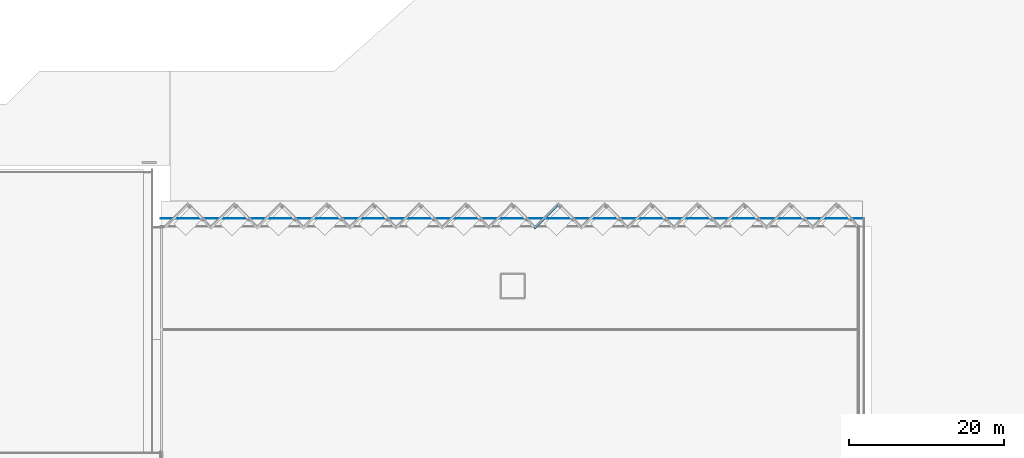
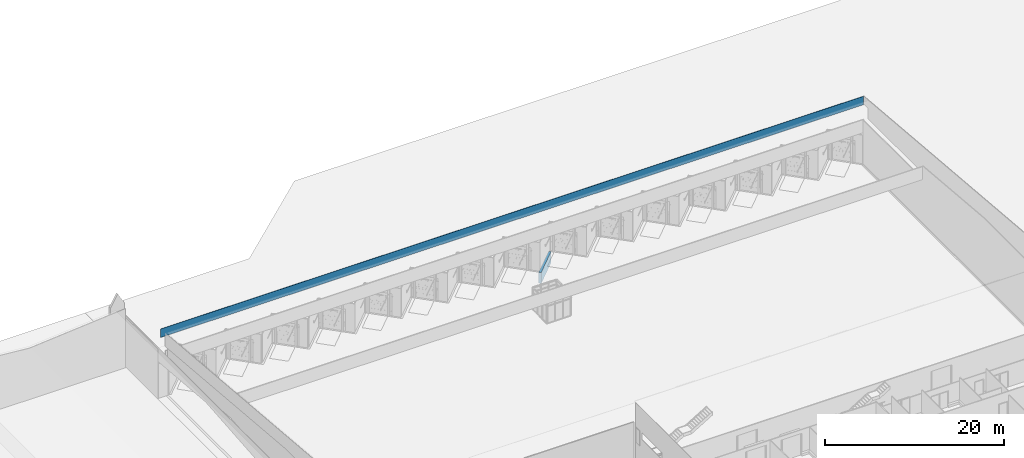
# One storey, part 39 of 64: 2 walls.
"""IFC2X3 building model written with IfcOpenShell, lengths in millimetres."""

from ifc_helpers import new_model, entity, si_unit, converted_unit, derived_unit, direction, frame, frame_2d, origin, place, context, subcontext, project, spatial, rectangle, extrude, material, layer, layer_set, layer_usage, type_object, element, save


model = new_model("IFC2X3")

# Units and contexts
model_context = context("Model", 3, precision=0.01, world=origin(), true_north=direction((4.05803320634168e-15, -1.0)))
body_context = subcontext(model_context, "Body", "Model", "MODEL_VIEW")
ifc_project = project(units=[si_unit("LENGTHUNIT", "METRE", prefix="MILLI"), si_unit("AREAUNIT", "SQUARE_METRE"), si_unit("VOLUMEUNIT", "CUBIC_METRE"), converted_unit("PLANEANGLEUNIT", "DEGREE", entity("IfcRatioMeasure", 0.0174532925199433), si_unit("PLANEANGLEUNIT", "RADIAN"), dimensions=[0, 0, 0, 0, 0, 0, 0]), si_unit("MASSUNIT", "GRAM", prefix="KILO"), derived_unit("MASSDENSITYUNIT", [(si_unit("MASSUNIT", "GRAM", prefix="KILO"), 1), (si_unit("LENGTHUNIT", "METRE"), -3)]), si_unit("TIMEUNIT", "SECOND"), si_unit("FREQUENCYUNIT", "HERTZ"), si_unit("THERMODYNAMICTEMPERATUREUNIT", "DEGREE_CELSIUS"), derived_unit("THERMALTRANSMITTANCEUNIT", [(si_unit("MASSUNIT", "GRAM", prefix="KILO"), 1), (si_unit("THERMODYNAMICTEMPERATUREUNIT", "KELVIN"), -1), (si_unit("TIMEUNIT", "SECOND"), -3)]), derived_unit("VOLUMETRICFLOWRATEUNIT", [(si_unit("LENGTHUNIT", "METRE"), 3), (si_unit("TIMEUNIT", "SECOND"), -1)]), si_unit("ELECTRICCURRENTUNIT", "AMPERE"), si_unit("ELECTRICVOLTAGEUNIT", "VOLT"), si_unit("POWERUNIT", "WATT"), si_unit("FORCEUNIT", "NEWTON", prefix="KILO"), si_unit("ILLUMINANCEUNIT", "LUX"), si_unit("LUMINOUSFLUXUNIT", "LUMEN"), si_unit("LUMINOUSINTENSITYUNIT", "CANDELA"), derived_unit("USERDEFINED", [(si_unit("MASSUNIT", "GRAM", prefix="KILO"), -1), (si_unit("LENGTHUNIT", "METRE"), -2), (si_unit("TIMEUNIT", "SECOND"), 3), (si_unit("LUMINOUSFLUXUNIT", "LUMEN"), 1)]), derived_unit("LINEARVELOCITYUNIT", [(si_unit("LENGTHUNIT", "METRE"), 1), (si_unit("TIMEUNIT", "SECOND"), -1)]), si_unit("PRESSUREUNIT", "PASCAL"), derived_unit("USERDEFINED", [(si_unit("LENGTHUNIT", "METRE"), -2), (si_unit("MASSUNIT", "GRAM", prefix="KILO"), 1), (si_unit("TIMEUNIT", "SECOND"), -2)])], contexts=[model_context])

# Site, building, storey
site_placement = place(None, frame((927466.849349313, 583801.882853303, 0.0), z_axis=(0.0, 0.0, 1.0), x_axis=(-1.0, 0.0, 0.0)))
site = spatial("IfcSite", under=ifc_project, at=site_placement, Name="Surface", CompositionType="ELEMENT")
building_placement = place(site_placement, origin())
building = spatial("IfcBuilding", under=site, at=building_placement, CompositionType="ELEMENT")
storey_placement = place(building_placement, frame((0.0, 0.0, 44170.0)))
storey = spatial("IfcBuildingStorey", under=building, at=storey_placement, Name="Ground FFL", CompositionType="ELEMENT", Elevation=44170.0)

# Walls
ifc_material_1 = material(Name="Cladding(2)")
ifc_layer_1 = layer(ifc_material_1, 38.0)
ifc_layer_set_1 = layer_set([ifc_layer_1], Name="Basic Wall:Cladding 3")
ifc_layer_usage_1 = layer_usage(ifc_layer_set_1, "AXIS2", "POSITIVE", -19.0)
wall_type_1 = type_object("IfcWallType", Name="Basic Wall:Cladding 3", PredefinedType="NOTDEFINED")
wall_1_placement = place(storey_placement, frame((-44618.0423298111, -31640.6282684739, 7250.0), z_axis=(0.0, 0.0, 1.0), x_axis=(-1.0, 0.0, 0.0)))
element("IfcWallStandardCase", 1, at=wall_1_placement, inside=storey, type_object=wall_type_1, material=ifc_layer_usage_1, Name="Basic Wall:Cladding 3", ObjectType="Basic Wall:Cladding 3", context=body_context, shape_type="SweptSolid", body=[
    extrude(rectangle(XDim=90832.5494500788, YDim=38.0, at=frame_2d((45416.2747250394, -7.47846229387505e-13), x_axis=(-1.0, 0.0))), origin(), (0.0, 0.0, 1.0), 1158.90292916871),
])
ifc_material_2 = material(Name="conc bund")
ifc_layer_2 = layer(ifc_material_2, 300.0)
ifc_layer_set_2 = layer_set([ifc_layer_2], Name="Basic Wall:300 bund wall")
ifc_layer_usage_2 = layer_usage(ifc_layer_set_2, "AXIS2", "POSITIVE", -150.0)
wall_type_2 = type_object("IfcWallType", Name="Basic Wall:300 bund wall", PredefinedType="STANDARD", material=ifc_layer_set_2)
wall_2_placement = place(storey_placement, frame((-95906.3706780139, -33356.1242200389, -1500.0), z_axis=(0.0, 0.0, 1.0), x_axis=(0.70710678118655, 0.707106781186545, 0.0)))
element("IfcWallStandardCase", 2, at=wall_2_placement, inside=storey, type_object=wall_type_2, material=ifc_layer_usage_2, Name="Basic Wall:300 bund wall", ObjectType="Basic Wall:300 bund wall", context=body_context, shape_type="SweptSolid", body=[
    extrude(rectangle(XDim=4232.26267936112, YDim=300.000000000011, at=frame_2d((2116.13133968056, 6.66489086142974e-12), x_axis=(-1.0, 0.0))), origin(), (0.0, 0.0, 1.0), 1500.00000000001),
])

save(model, "model.ifc")
